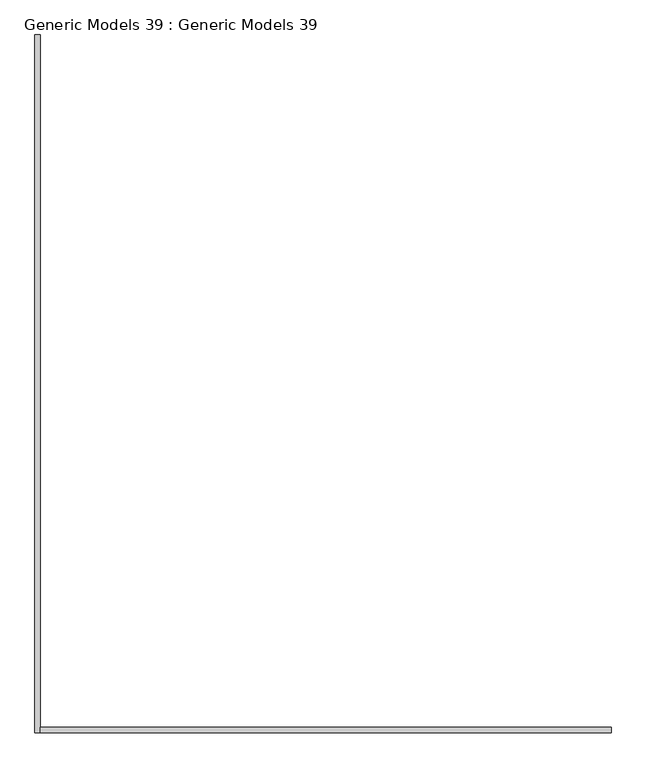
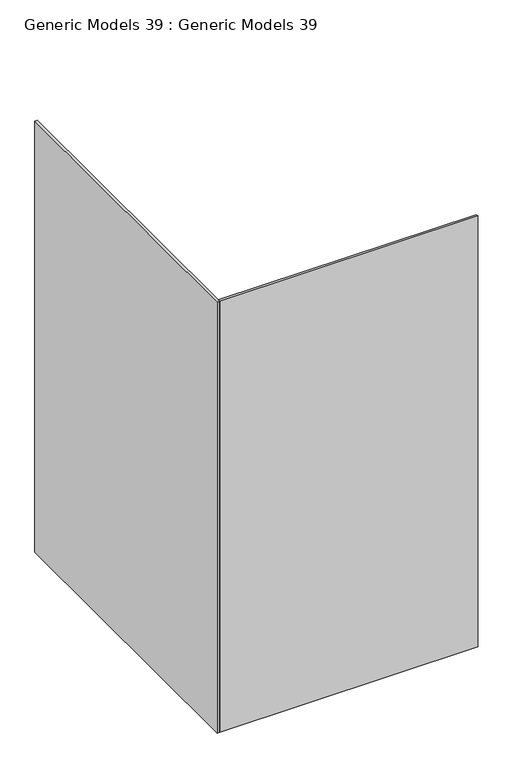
"""IFC4 building model written with IfcOpenShell, lengths in millimetres: proxy geometry, Generic Models 39 : Generic Models 39."""

from ifc_helpers import new_model, si_unit, origin, origin_with_axes, place, context, project, spatial, polyline, outline, extrude, source, transform, mapped, element, save


def generic_models_39_generic_models_39_59178a07(model_context):
    return source(origin(), model_context, "Body", "SweptSolid", [
        extrude(outline(polyline([(90949.200692, 17514.5737587), (92591.985489, 17514.5737587), (92591.985489, 17498.5737587), (90949.200692, 17498.5737587), (90949.200692, 17514.5737587)])), origin_with_axes(), (0.0, 0.0, 1.0), 2900.0),
        extrude(outline(polyline([(90949.200692, 19508.1562218), (90949.200692, 17498.5737587), (90933.200692, 17498.5737587), (90933.200692, 19508.1562218), (90949.200692, 19508.1562218)])), origin_with_axes(), (0.0, 0.0, 1.0), 2900.0),
    ])


if __name__ == "__main__":
    model = new_model("IFC4")
    model_context = context("Model", 3, world=origin())
    ifc_project = project(units=[si_unit("LENGTHUNIT", "METRE", prefix="MILLI")], contexts=[model_context])
    site = spatial("IfcSite", under=ifc_project)
    building = spatial("IfcBuilding", under=site)
    placement = place(None, origin())
    generic_models_39_generic_models_39_shape = generic_models_39_generic_models_39_59178a07(model_context)
    element("IfcBuildingElementProxy", 1, Name="Generic Models 39 : Generic Models 39", ObjectType="Generic Models 39 : Generic Models 39", at=placement, inside=building, context=model_context, shape_type="MappedRepresentation", body=[
        mapped(generic_models_39_generic_models_39_shape, transform((0.0, 0.0, 0.0), x_axis=(1.0, 0.0, 0.0), y_axis=(0.0, 1.0, 0.0), z_axis=(0.0, 0.0, 1.0))),
    ])
    save(model, "model.ifc")
